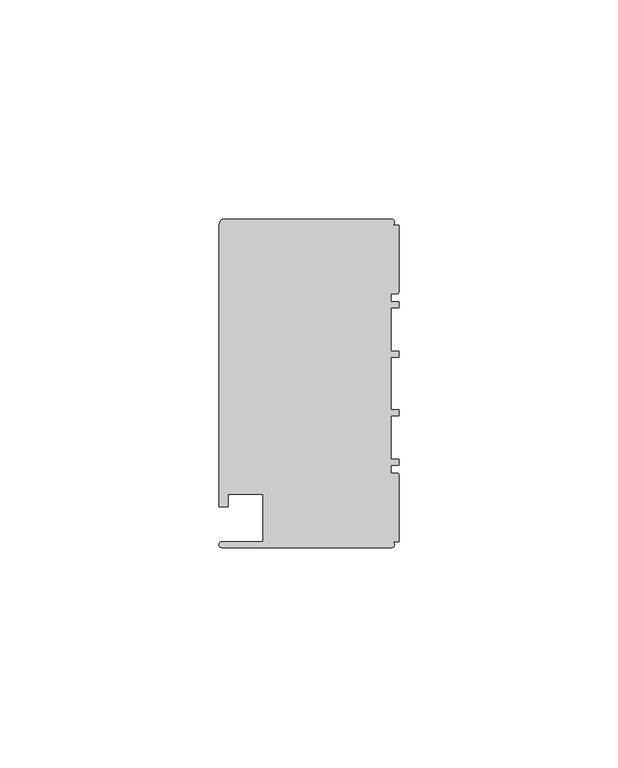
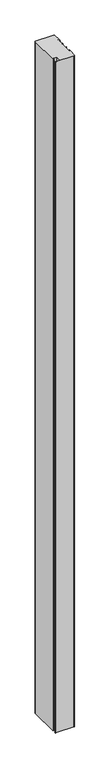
"""IFC4 building model written with IfcOpenShell, lengths in millimetres: member geometry, Прямоугольный импост : 1-AMG-1-Профиль 40Х75 Низ Л."""

from ifc_helpers import new_model, si_unit, point, frame, frame_2d, origin, place, context, project, spatial, polyline, circle_curve, trimmed, segment, composite_curve, outline, extrude, source, transform, mapped, element, save


def member_3ddb2ab7(model_context):
    return source(origin(), model_context, "Body", "SweptSolid", [
        extrude(outline(composite_curve([segment(polyline([(-1.7, -37.5), (-40.4, -37.5)]), True, "CONTINUOUS"), segment(trimmed(circle_curve(frame_2d((-40.4, -36.8)), 0.7), [point((-40.4, -37.5))], [point((-40.4, -36.1))], False, "CARTESIAN"), True, "CONTINUOUS"), segment(polyline([(-40.4, -36.1), (-31.0, -36.1), (-31.0, -25.25), (-39.0, -25.25), (-39.0, -28.1), (-41.1, -28.1), (-41.1, 35.6)]), True, "CONTINUOUS"), segment(trimmed(circle_curve(frame_2d((-38.1714286, 35.6)), 2.9285714), [point((-41.1, 35.6))], [point((-40.4, 37.5))], False, "CARTESIAN"), True, "CONTINUOUS"), segment(polyline([(-40.4, 37.5), (-1.7, 37.5)]), True, "CONTINUOUS"), segment(trimmed(circle_curve(frame_2d((-1.7, 36.8)), 0.7), [point((-1.7, 37.5))], [point((-1.7, 36.1))], False, "CARTESIAN"), True, "CONTINUOUS"), segment(polyline([(-1.7, 36.1), (0.0, 36.1), (0.0, 20.95)]), True, "CONTINUOUS"), segment(trimmed(circle_curve(frame_2d((-0.5, 20.95)), 0.5), [point((0.0, 20.95))], [point((-0.5, 20.45))], False, "CARTESIAN"), True, "CONTINUOUS"), segment(polyline([(-0.5, 20.45), (-1.8, 20.45), (-1.8, 18.65), (0.0, 18.65), (0.0, 17.25), (-1.8, 17.25), (-1.8, 7.4), (0.0, 7.4), (0.0, 6.0), (-1.8, 6.0), (-1.8, -6.0), (0.0, -6.0), (0.0, -7.4), (-1.8, -7.4), (-1.8, -17.25), (0.0, -17.25), (0.0, -18.65), (-1.8, -18.65), (-1.8, -20.45), (-0.5, -20.45)]), True, "CONTINUOUS"), segment(trimmed(circle_curve(frame_2d((-0.5, -20.95)), 0.5), [point((-0.5, -20.45))], [point((0.0, -20.95))], False, "CARTESIAN"), True, "CONTINUOUS"), segment(polyline([(0.0, -20.95), (0.0, -36.1), (-1.7, -36.1)]), True, "CONTINUOUS"), segment(trimmed(circle_curve(frame_2d((-1.7, -36.8)), 0.7), [point((-1.7, -36.1))], [point((-1.7, -37.5))], False, "CARTESIAN"), True, "CONTINUOUS")], self_intersect=False)), frame((0.0, 0.0, -1482.2093751), z_axis=(0.0, 0.0, 1.0), x_axis=(1.0, 0.0, 0.0)), (0.0, 0.0, 1.0), 1482.2093751),
    ])


if __name__ == "__main__":
    model = new_model("IFC4")
    model_context = context("Model", 3, world=origin())
    ifc_project = project(units=[si_unit("LENGTHUNIT", "METRE", prefix="MILLI")], contexts=[model_context])
    site = spatial("IfcSite", under=ifc_project)
    building = spatial("IfcBuilding", under=site)
    placement = place(None, origin())
    member_shape = member_3ddb2ab7(model_context)
    element("IfcMember", 1, ObjectType="Прямоугольный импост : 1-AMG-1-Профиль 40Х75 Низ Л", at=placement, inside=building, context=model_context, shape_type="MappedRepresentation", body=[
        mapped(member_shape, transform((0.0, 0.0, 0.0), x_axis=(1.0, 0.0, 0.0), y_axis=(0.0, 1.0, 0.0), z_axis=(0.0, 0.0, 1.0))),
    ])
    save(model, "model.ifc")
